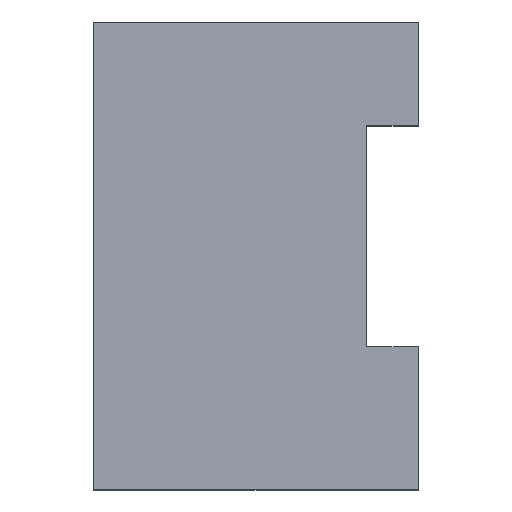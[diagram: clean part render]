
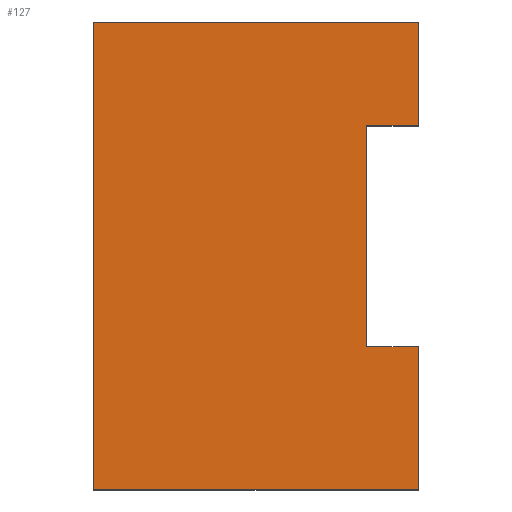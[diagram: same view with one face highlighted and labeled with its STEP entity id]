
A CAD part, top view. The second image highlights one B-rep face of the part: STEP entity #127.
In plain terms, the highlighted planar face has unit normal (0, 0, 1).
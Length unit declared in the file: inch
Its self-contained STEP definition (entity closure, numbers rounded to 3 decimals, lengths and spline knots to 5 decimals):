
#3 = EDGE_CURVE ( 'NONE', #14, #212, #363, .T. ) ;
#4 = CARTESIAN_POINT ( 'NONE',  ( 1.5625, 1.25, 0.0625 ) ) ;
#14 = VERTEX_POINT ( 'NONE', #4 ) ;
#20 = CARTESIAN_POINT ( 'NONE',  ( 1.5625, -2.25, 0.0625 ) ) ;
#21 = VECTOR ( 'NONE', #261, 39.37008 ) ;
#33 = VERTEX_POINT ( 'NONE', #94 ) ;
#36 = CARTESIAN_POINT ( 'NONE',  ( 0., 0., 0.0625 ) ) ;
#40 = EDGE_LOOP ( 'NONE', ( #322, #166, #179, #338, #139, #92, #88, #103 ) ) ;
#41 = PLANE ( 'NONE',  #205 ) ;
#44 = VECTOR ( 'NONE', #146, 39.37008 ) ;
#60 = EDGE_CURVE ( 'NONE', #63, #64, #171, .T. ) ;
#63 = VERTEX_POINT ( 'NONE', #90 ) ;
#64 = VERTEX_POINT ( 'NONE', #324 ) ;
#65 = CARTESIAN_POINT ( 'NONE',  ( 1.5625, 1.25, 0.0625 ) ) ;
#74 = VERTEX_POINT ( 'NONE', #121 ) ;
#75 = LINE ( 'NONE', #20, #44 ) ;
#77 = CARTESIAN_POINT ( 'NONE',  ( 1.5625, -2.25, 0.0625 ) ) ;
#88 = ORIENTED_EDGE ( 'NONE', *, *, #250, .T. ) ;
#90 = CARTESIAN_POINT ( 'NONE',  ( -1.5625, -2.25, 0.0625 ) ) ;
#92 = ORIENTED_EDGE ( 'NONE', *, *, #207, .T. ) ;
#94 = CARTESIAN_POINT ( 'NONE',  ( -1.5625, 2.25, 0.0625 ) ) ;
#97 = CARTESIAN_POINT ( 'NONE',  ( -1.5625, -2.25, 0.0625 ) ) ;
#103 = ORIENTED_EDGE ( 'NONE', *, *, #60, .T. ) ;
#118 = CARTESIAN_POINT ( 'NONE',  ( 1.0625, 1.25, 0.0625 ) ) ;
#121 = CARTESIAN_POINT ( 'NONE',  ( 1.5625, 2.25, 0.0625 ) ) ;
#126 = CARTESIAN_POINT ( 'NONE',  ( 1.5625, -0.875, 0.0625 ) ) ;
#127 = ADVANCED_FACE ( 'NONE', ( #192 ), #41, .F. ) ;
#137 = EDGE_CURVE ( 'NONE', #291, #257, #318, .T. ) ;
#139 = ORIENTED_EDGE ( 'NONE', *, *, #288, .T. ) ;
#143 = EDGE_CURVE ( 'NONE', #212, #291, #295, .T. ) ;
#146 = DIRECTION ( 'NONE',  ( 0., 1., 0. ) ) ;
#153 = DIRECTION ( 'NONE',  ( 0., 0., -1. ) ) ;
#161 = CARTESIAN_POINT ( 'NONE',  ( -1.5625, -2.25, 0.0625 ) ) ;
#164 = DIRECTION ( 'NONE',  ( 0., -1., 0. ) ) ;
#166 = ORIENTED_EDGE ( 'NONE', *, *, #137, .F. ) ;
#168 = CARTESIAN_POINT ( 'NONE',  ( 1.0625, -0.875, 0.0625 ) ) ;
#171 = LINE ( 'NONE', #97, #344 ) ;
#179 = ORIENTED_EDGE ( 'NONE', *, *, #143, .F. ) ;
#183 = VECTOR ( 'NONE', #356, 39.37008 ) ;
#191 = VECTOR ( 'NONE', #194, 39.37008 ) ;
#192 = FACE_OUTER_BOUND ( 'NONE', #40, .T. ) ;
#194 = DIRECTION ( 'NONE',  ( 0., 1., 0. ) ) ;
#205 = AXIS2_PLACEMENT_3D ( 'NONE', #36, #153, #237 ) ;
#207 = EDGE_CURVE ( 'NONE', #74, #33, #259, .T. ) ;
#212 = VERTEX_POINT ( 'NONE', #304 ) ;
#220 = VECTOR ( 'NONE', #273, 39.37008 ) ;
#231 = VECTOR ( 'NONE', #289, 39.37008 ) ;
#237 = DIRECTION ( 'NONE',  ( -1., 0., 0. ) ) ;
#250 = EDGE_CURVE ( 'NONE', #33, #63, #256, .T. ) ;
#256 = LINE ( 'NONE', #161, #317 ) ;
#257 = VERTEX_POINT ( 'NONE', #301 ) ;
#259 = LINE ( 'NONE', #334, #220 ) ;
#261 = DIRECTION ( 'NONE',  ( 1., 0., 0. ) ) ;
#269 = DIRECTION ( 'NONE',  ( 1., 0., 0. ) ) ;
#273 = DIRECTION ( 'NONE',  ( -1., 0., 0. ) ) ;
#288 = EDGE_CURVE ( 'NONE', #14, #74, #321, .T. ) ;
#289 = DIRECTION ( 'NONE',  ( -1., 0., 0. ) ) ;
#291 = VERTEX_POINT ( 'NONE', #168 ) ;
#295 = LINE ( 'NONE', #118, #183 ) ;
#297 = EDGE_CURVE ( 'NONE', #64, #257, #75, .T. ) ;
#301 = CARTESIAN_POINT ( 'NONE',  ( 1.5625, -0.875, 0.0625 ) ) ;
#304 = CARTESIAN_POINT ( 'NONE',  ( 1.0625, 1.25, 0.0625 ) ) ;
#317 = VECTOR ( 'NONE', #164, 39.37008 ) ;
#318 = LINE ( 'NONE', #126, #21 ) ;
#321 = LINE ( 'NONE', #77, #191 ) ;
#322 = ORIENTED_EDGE ( 'NONE', *, *, #297, .T. ) ;
#324 = CARTESIAN_POINT ( 'NONE',  ( 1.5625, -2.25, 0.0625 ) ) ;
#334 = CARTESIAN_POINT ( 'NONE',  ( -1.5625, 2.25, 0.0625 ) ) ;
#338 = ORIENTED_EDGE ( 'NONE', *, *, #3, .F. ) ;
#344 = VECTOR ( 'NONE', #269, 39.37008 ) ;
#356 = DIRECTION ( 'NONE',  ( 0., -1., 0. ) ) ;
#363 = LINE ( 'NONE', #65, #231 ) ;
